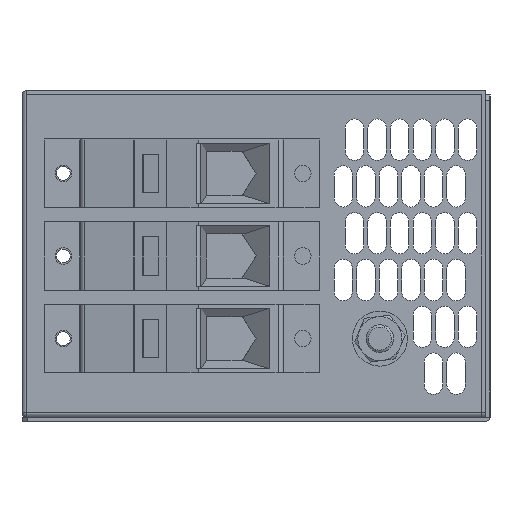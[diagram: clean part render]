
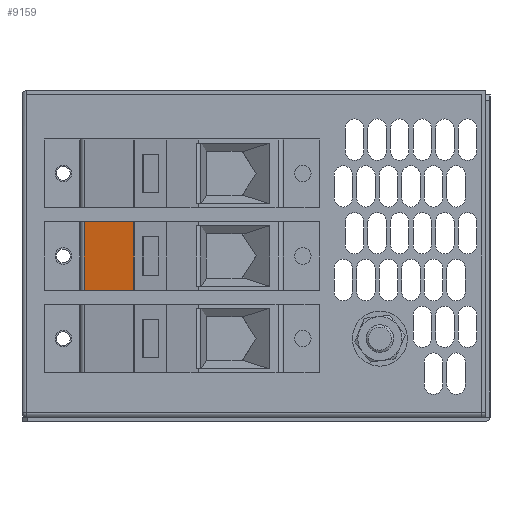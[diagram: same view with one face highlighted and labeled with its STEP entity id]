
A CAD part, left-side view. The second image highlights one B-rep face of the part: STEP entity #9159.
In plain terms, the highlighted planar face has unit normal (-0.983, 0.183, 0) as drawn and (0.983, 0.183, 0) by its records, which use the part's own axes.
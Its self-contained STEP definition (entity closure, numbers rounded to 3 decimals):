
#930 = EDGE_CURVE ( 'NONE', #28291, #15771, #21985, .T. ) ;
#1492 = AXIS2_PLACEMENT_3D ( 'NONE', #34070, #16953, #3226 ) ;
#1510 = LINE ( 'NONE', #15679, #4619 ) ;
#3181 = CARTESIAN_POINT ( 'NONE',  ( 74.971, 41.07, 25. ) ) ;
#3226 = DIRECTION ( 'NONE',  ( 0.183, -0.983, 0. ) ) ;
#4298 = LINE ( 'NONE', #23851, #33425 ) ;
#4619 = VECTOR ( 'NONE', #26604, 1000. ) ;
#8065 = LINE ( 'NONE', #13896, #8528 ) ;
#8528 = VECTOR ( 'NONE', #27780, 1000. ) ;
#9159 = ADVANCED_FACE ( 'NONE', ( #24416 ), #22697, .F. ) ;
#13896 = CARTESIAN_POINT ( 'NONE',  ( 78.325, 23.041, 25. ) ) ;
#15679 = CARTESIAN_POINT ( 'NONE',  ( 74.667, 42.704, 0. ) ) ;
#15771 = VERTEX_POINT ( 'NONE', #3181 ) ;
#16953 = DIRECTION ( 'NONE',  ( -0.983, -0.183, 0. ) ) ;
#17005 = EDGE_LOOP ( 'NONE', ( #24292, #19049, #29306, #28981 ) ) ;
#18522 = DIRECTION ( 'NONE',  ( 0., 0., 1. ) ) ;
#19049 = ORIENTED_EDGE ( 'NONE', *, *, #930, .T. ) ;
#19373 = VECTOR ( 'NONE', #18522, 1000. ) ;
#19959 = EDGE_CURVE ( 'NONE', #34736, #28291, #1510, .T. ) ;
#21756 = CARTESIAN_POINT ( 'NONE',  ( 78.325, 23.041, 0. ) ) ;
#21985 = LINE ( 'NONE', #26878, #19373 ) ;
#22697 = PLANE ( 'NONE',  #1492 ) ;
#23851 = CARTESIAN_POINT ( 'NONE',  ( 74.667, 42.704, 25. ) ) ;
#24292 = ORIENTED_EDGE ( 'NONE', *, *, #19959, .T. ) ;
#24416 = FACE_OUTER_BOUND ( 'NONE', #17005, .T. ) ;
#24770 = EDGE_CURVE ( 'NONE', #35728, #15771, #4298, .T. ) ;
#26604 = DIRECTION ( 'NONE',  ( -0.183, 0.983, 0. ) ) ;
#26619 = EDGE_CURVE ( 'NONE', #34736, #35728, #8065, .T. ) ;
#26878 = CARTESIAN_POINT ( 'NONE',  ( 74.971, 41.07, 25. ) ) ;
#27780 = DIRECTION ( 'NONE',  ( 0., 0., 1. ) ) ;
#28291 = VERTEX_POINT ( 'NONE', #30441 ) ;
#28981 = ORIENTED_EDGE ( 'NONE', *, *, #26619, .F. ) ;
#29306 = ORIENTED_EDGE ( 'NONE', *, *, #24770, .F. ) ;
#30441 = CARTESIAN_POINT ( 'NONE',  ( 74.971, 41.07, 0. ) ) ;
#31697 = CARTESIAN_POINT ( 'NONE',  ( 78.325, 23.041, 25. ) ) ;
#33425 = VECTOR ( 'NONE', #35613, 1000. ) ;
#34070 = CARTESIAN_POINT ( 'NONE',  ( 74.667, 42.704, 25. ) ) ;
#34736 = VERTEX_POINT ( 'NONE', #21756 ) ;
#35613 = DIRECTION ( 'NONE',  ( -0.183, 0.983, 0. ) ) ;
#35728 = VERTEX_POINT ( 'NONE', #31697 ) ;
